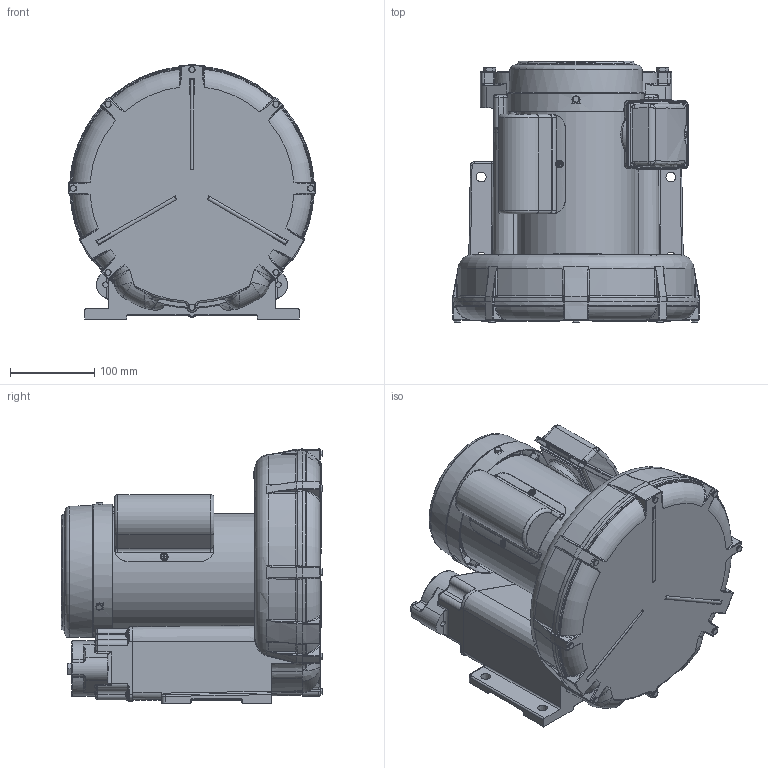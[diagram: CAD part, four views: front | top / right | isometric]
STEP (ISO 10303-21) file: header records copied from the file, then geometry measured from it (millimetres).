
FILE_DESCRIPTION(/* description */ (''),/* implementation_level */ '2;1');
FILE_NAME(/* name */ 'Y:\鼓風機\鼓風機組合\\X2\591689C07D445408\X0\\VFC400P-5T.stp',/* time_stamp */ '2018-02-06T11:37:02+08:00',/* author */ ('daniel'),/* organization */ (''),/* preprocessor_version */ 'ST-DEVELOPER v16.1',/* originating_system */ 'Autodesk Inventor 2016',/* authorisation */ '');
FILE_SCHEMA (('AUTOMOTIVE_DESIGN { 1 0 10303 214 3 1 1 }'));
Length unit declared in the file: millimetre
Products named in the file (1): VFC400P-5T
Bounding box: 292.98 x 309.8 x 301.44 mm (x, y, z)
Volume: 339906.1 mm3; surface area: 641606.2 mm2
Topology: 5 solids, 6 shells, 3567 faces, 9483 edges, 5823 vertices
Faces by surface type: bspline 1084, plane 809, cylinder 786, torus 417, cone 364, sphere 107
Full cylindrical faces by diameter (mm): 4 x3, 4.5 x1, 5.88 x8, 6 x4, 6.65 x2, 7 x2, 9 x2, 12 x1, 22 x1, 23.2 x1, 27 x1, 44.845 x2, 50 x1, 60 x1, 139.6 x1
Entity records: 173250 total; most frequent: CARTESIAN_POINT 92379, ORIENTED_EDGE 18376, DIRECTION 13356, EDGE_CURVE 9177, VERTEX_POINT 5760, AXIS2_PLACEMENT_3D 5609, EDGE_LOOP 3768, FACE_OUTER_BOUND 3561
